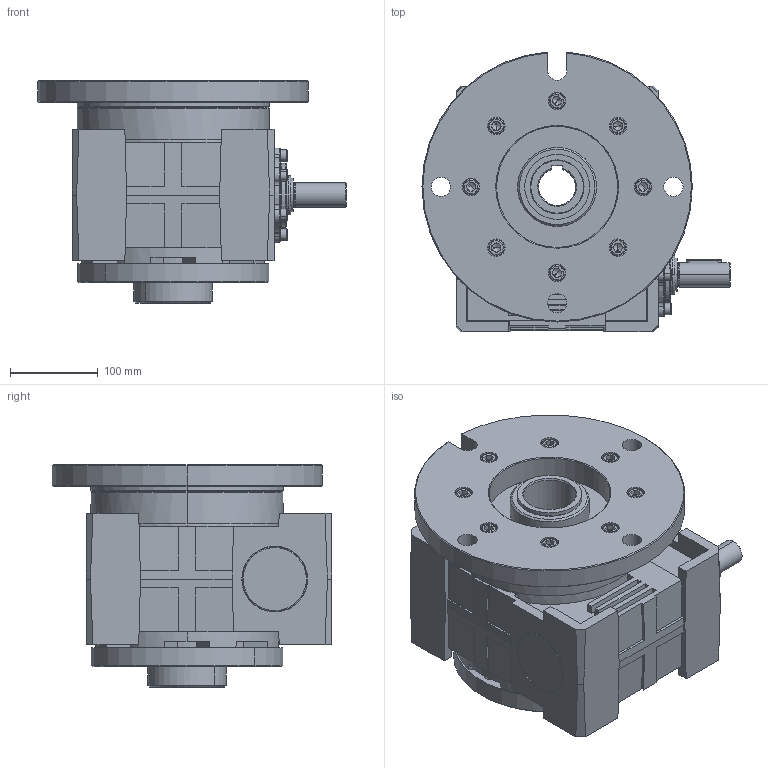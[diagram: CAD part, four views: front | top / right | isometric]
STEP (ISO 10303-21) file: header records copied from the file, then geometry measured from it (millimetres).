
FILE_DESCRIPTION (( 'STEP AP203' ), '1' );
FILE_NAME ('MRP-100_WBS_SO-2_K-2.STEP', '2022-12-05T11:51:46', ( '' ), ( '' ), 'SwSTEP 2.0', 'SolidWorks 2022', '' );
FILE_SCHEMA (( 'CONFIG_CONTROL_DESIGN' ));
Length unit declared in the file: millimetre
Products named in the file (1): MRP-100_WBS_SO-2_K-2
Bounding box: 351 x 318.61 x 253 mm (x, y, z)
Volume: 11232073.5 mm3; surface area: 784274.3 mm2
Topology: 1 solids, 73 shells, 1646 faces, 3789 edges, 2296 vertices
Faces by surface type: plane 763, cylinder 411, cone 278, torus 182, bspline 12
Entity records: 47003 total; most frequent: CARTESIAN_POINT 9038, DIRECTION 8500, ORIENTED_EDGE 7422, EDGE_CURVE 3711, AXIS2_PLACEMENT_3D 3298, VERTEX_POINT 2296, VECTOR 1904, LINE 1904
